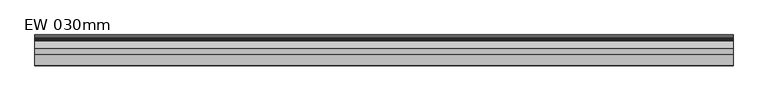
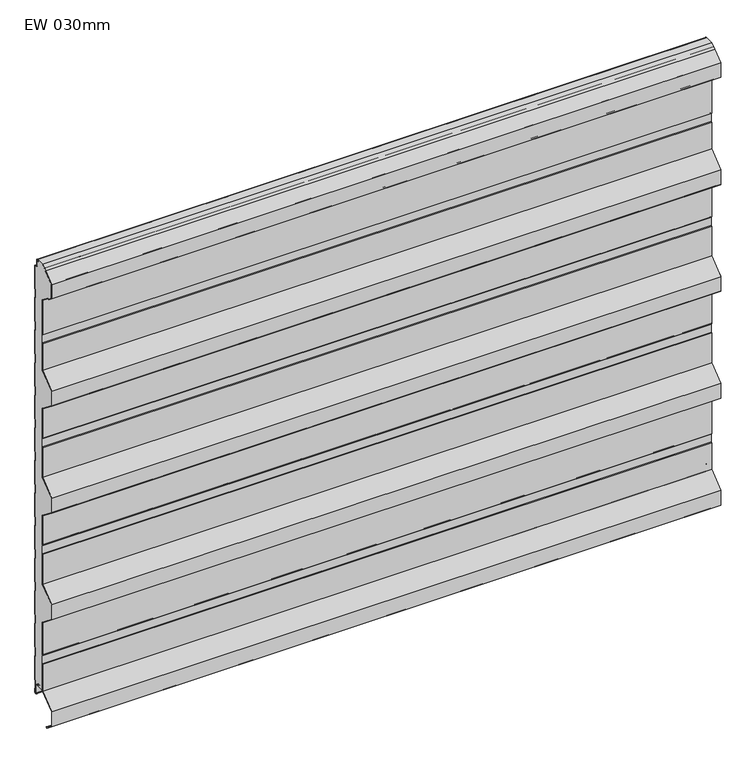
"""IFC4 building model written with IfcOpenShell, lengths in millimetres: plate geometry, KIP-MEX-KC-R19-CP-EW-SL : EW 030mm."""

from ifc_helpers import new_model, si_unit, point, frame, frame_2d, origin, place, context, project, spatial, polyline, circle_curve, trimmed, segment, composite_curve, outline, extrude, source, transform, mapped, element, save
from ifc_brep_helpers import plane_surface, cylinder_surface, revolved_surface, advanced_brep


def ew_030mm_7c448985(model_context):
    return source(origin(), model_context, "Body", "SolidModel", [
        advanced_brep(
        [(-740.0, -40.0327477, 989.051258), (-740.0, -35.6292245, 991.4166419), (-740.0, -36.1011177, 992.2982989), (-740.0, -40.5823669, 989.8911639), (-740.0, -29.7971296, 998.3652789), (-740.0, -11.2514375, 998.3666923), (-740.0, -13.6351997, 996.0840542), (-740.0, -14.1562355, 990.2938452), (-740.0, -13.178913, 990.2059002), (-740.0, -12.6629632, 995.9395891), (-740.0, -10.8760369, 997.3642752), (-740.0, -8.8936988, 995.9342793), (-740.0, -7.4885937, 979.8720443), (-740.0, -4.5000049, 977.1334803), (-740.0, -1.0, 977.1334803), (-740.0, -1.0, 924.1786391), (-740.0, -2.2002307, 922.7930062), (-740.0, -2.2002307, 903.4178399), (-740.0, -1.0, 902.0322069), (-740.0, -1.0, 847.9787915), (-740.0, -2.2002307, 846.5931586), (-740.0, -2.2002307, 827.2179923), (-740.0, -1.0, 825.8323593), (-740.0, -1.0, 771.7789439), (-740.0, -2.2002307, 770.393311), (-740.0, -2.2002307, 751.0181447), (-740.0, -1.0, 749.6325117), (-740.0, -1.0, 695.5790963), (-740.0, -2.2002307, 694.1934634), (-740.0, -2.2002307, 674.8182971), (-740.0, -1.0, 673.4326641), (-740.0, -1.0, 619.3792487), (-740.0, -2.2002307, 617.9936158), (-740.0, -2.2002307, 598.6184495), (-740.0, -1.0, 597.2328165), (-740.0, -1.0, 543.1794011), (-740.0, -2.2002307, 541.7937682), (-740.0, -2.2002307, 522.4186019), (-740.0, -1.0, 521.0329689), (-740.0, -1.0, 466.9795535), (-740.0, -2.2002307, 465.5939206), (-740.0, -2.2002307, 446.2187543), (-740.0, -1.0, 444.8331213), (-740.0, -1.0, 390.7797059), (-740.0, -2.2002307, 389.394073), (-740.0, -2.2002307, 370.0189067), (-740.0, -1.0, 368.6332737), (-740.0, -1.0, 314.5798583), (-740.0, -2.2002307, 313.1942254), (-740.0, -2.2002307, 293.8190591), (-740.0, -1.0, 292.4334261), (-740.0, -1.0, 238.3800107), (-740.0, -2.2002307, 236.9943778), (-740.0, -2.2002307, 217.6192115), (-740.0, -1.0, 216.2335785), (-740.0, -1.0, 162.1801631), (-740.0, -2.2002307, 160.7945302), (-740.0, -2.2002307, 141.4193639), (-740.0, -1.0, 140.0337309), (-740.0, -1.0, 85.9803155), (-740.0, -2.2002307, 84.5946826), (-740.0, -2.2002307, 65.2195163), (-740.0, -1.0, 63.8338833), (-740.0, -1.0, 9.7804679), (-740.0, -2.2002307, 8.394835), (-740.0, -2.2002307, -10.9803313), (-740.0, -0.9999916, -12.365974), (-740.0, -0.9999916, -20.8675386), (-740.0, -2.4999198, -20.8675386), (-740.0, -4.9998241, -18.3676343), (-740.0, -4.9998241, -0.3670493), (-740.0, -7.998082, 2.6333088), (-740.0, -11.5943952, 2.6333088), (-740.0, -13.0725686, 3.8746028), (-740.0, -13.6943971, 7.4169376), (-740.0, -14.6793372, 7.2440392), (-740.0, -14.0575086, 3.7017037), (-740.0, -11.5958694, 1.6333077), (-740.0, -29.0, 1.6333077), (-740.0, -29.0, 62.1559418), (-740.0, -27.9999989, 63.5702249), (-740.0, -27.9999989, 82.7777465), (-740.0, -29.0, 84.1920296), (-740.0, -29.0, 160.6910066), (-740.0, -64.000038, 188.1910365), (-740.0, -64.000038, 222.2190039), (-740.0, -29.0, 249.7190337), (-740.0, -29.0, 319.1871119), (-740.0, -27.9999989, 320.601395), (-740.0, -27.9999989, 339.8089167), (-740.0, -29.0, 341.2231997), (-740.0, -29.0, 410.6912779), (-740.0, -64.000038, 438.1913078), (-740.0, -64.000038, 472.2192752), (-740.0, -29.0, 499.719305), (-740.0, -29.0, 569.1090864), (-740.0, -27.9999989, 570.1732653), (-740.0, -27.9999989, 589.809188), (-740.0, -29.0, 591.2234711), (-740.0, -29.0, 660.6915492), (-740.0, -64.000038, 688.1915791), (-740.0, -64.000038, 722.2195465), (-740.0, -29.0, 749.7195763), (-740.0, -29.0, 812.1567557), (-740.0, -27.9999989, 813.5710388), (-740.0, -27.9999989, 832.7785605), (-740.0, -29.0, 834.1928435), (-740.0, -29.0, 914.6918249), (-740.0, -49.3814311, 930.7058064), (-740.0, -53.199617, 930.7058064), (-740.0, -63.0000369, 938.4061363), (-740.0, -63.0000369, 971.0055308), (740.0, -40.0327477, 989.051258), (740.0, -63.0000369, 971.0055308), (740.0, -63.0000369, 938.4061363), (740.0, -53.199617, 930.7058064), (740.0, -49.3814311, 930.7058064), (740.0, -29.0, 914.6918249), (740.0, -29.0, 834.1928435), (740.0, -27.9999989, 832.7785605), (740.0, -27.9999989, 813.5710388), (740.0, -29.0, 812.1567557), (740.0, -29.0, 749.7195763), (740.0, -64.000038, 722.2195465), (740.0, -64.000038, 688.1915791), (740.0, -29.0, 660.6915492), (740.0, -29.0, 591.2234711), (740.0, -27.9999989, 589.809188), (740.0, -27.9999989, 570.1732653), (740.0, -29.0, 569.1090864), (740.0, -29.0, 499.719305), (740.0, -64.000038, 472.2192752), (740.0, -64.000038, 438.1913078), (740.0, -29.0, 410.6912779), (740.0, -29.0, 341.2231997), (740.0, -27.9999989, 339.8089167), (740.0, -27.9999989, 320.601395), (740.0, -29.0, 319.1871119), (740.0, -29.0, 249.7190337), (740.0, -64.000038, 222.2190039), (740.0, -64.000038, 188.1910365), (740.0, -29.0, 160.6910066), (740.0, -29.0, 84.1920296), (740.0, -27.9999989, 82.7777465), (740.0, -27.9999989, 63.5702249), (740.0, -29.0, 62.1559418), (740.0, -29.0, 1.6333077), (740.0, -11.5958694, 1.6333077), (740.0, -14.0575086, 3.7017037), (740.0, -14.6793372, 7.2440392), (740.0, -13.6943971, 7.4169376), (740.0, -13.0725686, 3.8746028), (740.0, -11.5943952, 2.6333088), (740.0, -7.998082, 2.6333088), (740.0, -4.9998241, -0.3670493), (740.0, -4.9998241, -18.3676343), (740.0, -2.4999198, -20.8675386), (740.0, -0.9999916, -20.8675386), (740.0, -0.9999916, -12.365974), (740.0, -2.2002307, -10.9803313), (740.0, -2.2002307, 8.394835), (740.0, -1.0, 9.7804679), (740.0, -1.0, 63.8338833), (740.0, -2.2002307, 65.2195163), (740.0, -2.2002307, 84.5946826), (740.0, -1.0, 85.9803155), (740.0, -1.0, 140.0337309), (740.0, -2.2002307, 141.4193639), (740.0, -2.2002307, 160.7945302), (740.0, -1.0, 162.1801631), (740.0, -1.0, 216.2335785), (740.0, -2.2002307, 217.6192115), (740.0, -2.2002307, 236.9943778), (740.0, -1.0, 238.3800107), (740.0, -1.0, 292.4334261), (740.0, -2.2002307, 293.8190591), (740.0, -2.2002307, 313.1942254), (740.0, -1.0, 314.5798583), (740.0, -1.0, 368.6332737), (740.0, -2.2002307, 370.0189067), (740.0, -2.2002307, 389.394073), (740.0, -1.0, 390.7797059), (740.0, -1.0, 444.8331213), (740.0, -2.2002307, 446.2187543), (740.0, -2.2002307, 465.5939206), (740.0, -1.0, 466.9795535), (740.0, -1.0, 521.0329689), (740.0, -2.2002307, 522.4186019), (740.0, -2.2002307, 541.7937682), (740.0, -1.0, 543.1794011), (740.0, -1.0, 597.2328165), (740.0, -2.2002307, 598.6184495), (740.0, -2.2002307, 617.9936158), (740.0, -1.0, 619.3792487), (740.0, -1.0, 673.4326641), (740.0, -2.2002307, 674.8182971), (740.0, -2.2002307, 694.1934634), (740.0, -1.0, 695.5790963), (740.0, -1.0, 749.6325117), (740.0, -2.2002307, 751.0181447), (740.0, -2.2002307, 770.393311), (740.0, -1.0, 771.7789439), (740.0, -1.0, 825.8323593), (740.0, -2.2002307, 827.2179923), (740.0, -2.2002307, 846.5931586), (740.0, -1.0, 847.9787915), (740.0, -1.0, 902.0322069), (740.0, -2.2002307, 903.4178399), (740.0, -2.2002307, 922.7930062), (740.0, -1.0, 924.1786391), (740.0, -1.0, 977.1334803), (740.0, -4.5000049, 977.1334803), (740.0, -7.4885937, 979.8720443), (740.0, -8.8936988, 995.9342793), (740.0, -10.8760369, 997.3642752), (740.0, -12.6629632, 995.9395891), (740.0, -13.178913, 990.2059002), (740.0, -14.1562355, 990.2938452), (740.0, -13.6351997, 996.0840542), (740.0, -11.2514375, 998.3666923), (740.0, -29.7971296, 998.3652789), (740.0, -40.5823669, 989.8911639), (740.0, -36.1011177, 992.2982989), (740.0, -35.6292245, 991.4166419)],
        [
            (0, 1),
            (1, 2),
            (2, 3),
            (3, 4),
            (4, 5),
            (5, 6, circle_curve(frame((-740.0, -10.8441969, 995.5554081), z_axis=(1.0, 0.0, 0.0), x_axis=(0.0, -1.0, 0.0)), 2.8406273)),
            (6, 7),
            (7, 8),
            (8, 9),
            (9, 10, circle_curve(frame((-740.0, -10.8991179, 995.560247), z_axis=(-1.0, 0.0, 0.0), x_axis=(0.0, -1.0, 0.0)), 1.8041759)),
            (10, 11, circle_curve(frame((-740.0, -10.6928483, 995.5292107), z_axis=(-1.0, 0.0, 0.0), x_axis=(0.0, -1.0, 0.0)), 1.8441854)),
            (11, 12),
            (12, 13, circle_curve(frame((-740.0, -4.5000049, 980.1334825), z_axis=(1.0, 0.0, 0.0), x_axis=(0.0, -1.0, 0.0)), 3.0000022)),
            (13, 14),
            (14, 15),
            (15, 16),
            (16, 17),
            (17, 18),
            (18, 19),
            (19, 20),
            (20, 21),
            (21, 22),
            (22, 23),
            (23, 24),
            (24, 25),
            (25, 26),
            (26, 27),
            (27, 28),
            (28, 29),
            (29, 30),
            (30, 31),
            (31, 32),
            (32, 33),
            (33, 34),
            (34, 35),
            (35, 36),
            (36, 37),
            (37, 38),
            (38, 39),
            (39, 40),
            (40, 41),
            (41, 42),
            (42, 43),
            (43, 44),
            (44, 45),
            (45, 46),
            (46, 47),
            (47, 48),
            (48, 49),
            (49, 50),
            (50, 51),
            (51, 52),
            (52, 53),
            (53, 54),
            (54, 55),
            (55, 56),
            (56, 57),
            (57, 58),
            (58, 59),
            (59, 60),
            (60, 61),
            (61, 62),
            (62, 63),
            (63, 64),
            (64, 65),
            (65, 66),
            (66, 67),
            (67, 68),
            (68, 69, circle_curve(frame((-740.0, -2.4999198, -18.3676343), z_axis=(-1.0, 0.0, 0.0), x_axis=(0.0, -1.0, 0.0)), 2.4999043)),
            (69, 70),
            (70, 71, circle_curve(frame((-740.0, -8.0001829, -0.3670493), z_axis=(1.0, 0.0, 0.0), x_axis=(0.0, -1.0, 0.0)), 3.0003589)),
            (71, 72),
            (72, 73, circle_curve(frame((-740.0, -11.5943952, 4.1340843), z_axis=(-1.0, 0.0, 0.0), x_axis=(0.0, -1.0, 0.0)), 1.5007755)),
            (73, 74),
            (74, 75),
            (75, 76),
            (76, 77, circle_curve(frame((-740.0, -11.5943948, 4.1340836), z_axis=(1.0, 0.0, 0.0), x_axis=(0.0, -1.0, 0.0)), 2.5007762)),
            (77, 78),
            (78, 79),
            (79, 80),
            (80, 81),
            (81, 82),
            (82, 83),
            (83, 84),
            (84, 85),
            (85, 86),
            (86, 87),
            (87, 88),
            (88, 89),
            (89, 90),
            (90, 91),
            (91, 92),
            (92, 93),
            (93, 94),
            (94, 95),
            (95, 96),
            (96, 97),
            (97, 98),
            (98, 99),
            (99, 100),
            (100, 101),
            (101, 102),
            (102, 103),
            (103, 104),
            (104, 105),
            (105, 106),
            (106, 107),
            (107, 108),
            (108, 109),
            (109, 110),
            (110, 111),
            (111, 0),
            (112, 113),
            (113, 114),
            (114, 115),
            (115, 116),
            (116, 117),
            (117, 118),
            (118, 119),
            (119, 120),
            (120, 121),
            (121, 122),
            (122, 123),
            (123, 124),
            (124, 125),
            (125, 126),
            (126, 127),
            (127, 128),
            (128, 129),
            (129, 130),
            (130, 131),
            (131, 132),
            (132, 133),
            (133, 134),
            (134, 135),
            (135, 136),
            (136, 137),
            (137, 138),
            (138, 139),
            (139, 140),
            (140, 141),
            (141, 142),
            (142, 143),
            (143, 144),
            (144, 145),
            (145, 146),
            (146, 147),
            (147, 148, circle_curve(frame((740.0, -11.5943948, 4.1340836), z_axis=(-1.0, 0.0, 0.0), x_axis=(0.0, -1.0, 0.0)), 2.5007762)),
            (148, 149),
            (149, 150),
            (150, 151),
            (151, 152, circle_curve(frame((740.0, -11.5943952, 4.1340843), z_axis=(1.0, 0.0, 0.0), x_axis=(0.0, -1.0, 0.0)), 1.5007755)),
            (152, 153),
            (153, 154, circle_curve(frame((740.0, -8.0001829, -0.3670493), z_axis=(-1.0, 0.0, 0.0), x_axis=(0.0, -1.0, 0.0)), 3.0003589)),
            (154, 155),
            (155, 156, circle_curve(frame((740.0, -2.4999198, -18.3676343), z_axis=(1.0, 0.0, 0.0), x_axis=(0.0, -1.0, 0.0)), 2.4999043)),
            (156, 157),
            (157, 158),
            (158, 159),
            (159, 160),
            (160, 161),
            (161, 162),
            (162, 163),
            (163, 164),
            (164, 165),
            (165, 166),
            (166, 167),
            (167, 168),
            (168, 169),
            (169, 170),
            (170, 171),
            (171, 172),
            (172, 173),
            (173, 174),
            (174, 175),
            (175, 176),
            (176, 177),
            (177, 178),
            (178, 179),
            (179, 180),
            (180, 181),
            (181, 182),
            (182, 183),
            (183, 184),
            (184, 185),
            (185, 186),
            (186, 187),
            (187, 188),
            (188, 189),
            (189, 190),
            (190, 191),
            (191, 192),
            (192, 193),
            (193, 194),
            (194, 195),
            (195, 196),
            (196, 197),
            (197, 198),
            (198, 199),
            (199, 200),
            (200, 201),
            (201, 202),
            (202, 203),
            (203, 204),
            (204, 205),
            (205, 206),
            (206, 207),
            (207, 208),
            (208, 209),
            (209, 210),
            (210, 211),
            (211, 212, circle_curve(frame((740.0, -4.5000049, 980.1334825), z_axis=(-1.0, 0.0, 0.0), x_axis=(0.0, -1.0, 0.0)), 3.0000022)),
            (212, 213),
            (213, 214, circle_curve(frame((740.0, -10.6928483, 995.5292107), z_axis=(1.0, 0.0, 0.0), x_axis=(0.0, -1.0, 0.0)), 1.8441854)),
            (214, 215, circle_curve(frame((740.0, -10.8991179, 995.560247), z_axis=(1.0, 0.0, 0.0), x_axis=(0.0, -1.0, 0.0)), 1.8041759)),
            (215, 216),
            (216, 217),
            (217, 218),
            (218, 219, circle_curve(frame((740.0, -10.8441969, 995.5554081), z_axis=(-1.0, 0.0, 0.0), x_axis=(0.0, -1.0, 0.0)), 2.8406273)),
            (219, 220),
            (220, 221),
            (221, 222),
            (222, 223),
            (223, 112),
            (0, 112),
            (223, 1),
            (111, 113),
            (110, 114),
            (109, 115),
            (108, 116),
            (107, 117),
            (106, 118),
            (105, 119),
            (104, 120),
            (103, 121),
            (102, 122),
            (101, 123),
            (100, 124),
            (99, 125),
            (98, 126),
            (97, 127),
            (96, 128),
            (95, 129),
            (94, 130),
            (93, 131),
            (92, 132),
            (91, 133),
            (90, 134),
            (89, 135),
            (88, 136),
            (87, 137),
            (86, 138),
            (85, 139),
            (84, 140),
            (83, 141),
            (82, 142),
            (81, 143),
            (80, 144),
            (79, 145),
            (78, 146),
            (2, 222),
            (221, 3),
            (220, 4),
            (219, 5),
            (77, 147),
            (73, 151),
            (150, 74),
            (72, 152),
            (71, 153),
            (70, 154),
            (69, 155),
            (68, 156),
            (67, 157),
            (13, 211),
            (210, 14),
            (12, 212),
            (11, 213),
            (10, 214),
            (9, 215),
            (8, 216),
            (7, 217),
            (6, 218),
            (76, 148),
            (75, 149),
            (66, 158),
            (65, 159),
            (64, 160),
            (63, 161),
            (62, 162),
            (61, 163),
            (60, 164),
            (59, 165),
            (58, 166),
            (57, 167),
            (56, 168),
            (55, 169),
            (54, 170),
            (53, 171),
            (52, 172),
            (51, 173),
            (50, 174),
            (49, 175),
            (48, 176),
            (47, 177),
            (46, 178),
            (45, 179),
            (44, 180),
            (43, 181),
            (42, 182),
            (41, 183),
            (40, 184),
            (39, 185),
            (38, 186),
            (37, 187),
            (36, 188),
            (35, 189),
            (34, 190),
            (33, 191),
            (32, 192),
            (31, 193),
            (30, 194),
            (29, 195),
            (28, 196),
            (27, 197),
            (26, 198),
            (25, 199),
            (24, 200),
            (23, 201),
            (22, 202),
            (21, 203),
            (20, 204),
            (19, 205),
            (18, 206),
            (17, 207),
            (16, 208),
            (15, 209),
        ],
        [
            plane_surface(frame((-740.0, -29.0, 500.0), z_axis=(-1.0, 0.0, 0.0), x_axis=(0.0, -1.0, 0.0))),
            plane_surface(frame((740.0, -29.0, 500.0), z_axis=(1.0, 0.0, 0.0), x_axis=(0.0, -1.0, 0.0))),
            plane_surface(frame((-740.0, -35.6292245, 991.4166419), z_axis=(0.0, -0.4732087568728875, 0.8809503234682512), x_axis=(1.0, 0.0, 0.0))),
            plane_surface(frame((-740.0, -40.0327477, 989.051258), z_axis=(0.0, -0.6178215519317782, 0.7863183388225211), x_axis=(1.0, 0.0, 0.0))),
            plane_surface(frame((-740.0, -63.0000369, 971.0055308), z_axis=(0.0, -1.0, 0.0), x_axis=(1.0, 0.0, 0.0))),
            plane_surface(frame((-740.0, -63.0000369, 938.4061363), z_axis=(0.0, -0.6178215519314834, -0.7863183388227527), x_axis=(1.0, 0.0, 0.0))),
            plane_surface(frame((-740.0, -53.199617, 930.7058064), z_axis=(0.0, 0.0, -1.0), x_axis=(1.0, 0.0, 0.0))),
            plane_surface(frame((-740.0, -49.3814311, 930.7058064), z_axis=(0.0, -0.6178215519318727, -0.786318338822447), x_axis=(1.0, 0.0, 0.0))),
            plane_surface(frame((-740.0, -29.0, 914.6918249), z_axis=(0.0, -1.0, 0.0), x_axis=(1.0, 0.0, 0.0))),
            plane_surface(frame((-740.0, -29.0, 834.1928435), z_axis=(0.0, -0.8165096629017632, -0.577331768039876), x_axis=(1.0, 0.0, 0.0))),
            plane_surface(frame((-740.0, -27.9999989, 832.7785605), z_axis=(0.0, -1.0, 0.0), x_axis=(1.0, 0.0, 0.0))),
            plane_surface(frame((-740.0, -27.9999989, 813.5710388), z_axis=(0.0, -0.816509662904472, 0.5773317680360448), x_axis=(1.0, 0.0, 0.0))),
            plane_surface(frame((-740.0, -29.0, 812.1567557), z_axis=(0.0, -1.0, 0.0), x_axis=(1.0, 0.0, 0.0))),
            plane_surface(frame((-740.0, -29.0, 749.7195763), z_axis=(0.0, -0.6178215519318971, 0.7863183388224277), x_axis=(1.0, 0.0, 0.0))),
            plane_surface(frame((-740.0, -64.000038, 722.2195465), z_axis=(0.0, -1.0, 0.0), x_axis=(1.0, 0.0, 0.0))),
            plane_surface(frame((-740.0, -64.000038, 688.1915791), z_axis=(0.0, -0.6178215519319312, -0.7863183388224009), x_axis=(1.0, 0.0, 0.0))),
            plane_surface(frame((-740.0, -29.0, 660.6915492), z_axis=(0.0, -1.0, 0.0), x_axis=(1.0, 0.0, 0.0))),
            plane_surface(frame((-740.0, -29.0, 591.2234711), z_axis=(0.0, -0.8165096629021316, -0.577331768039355), x_axis=(1.0, 0.0, 0.0))),
            plane_surface(frame((-740.0, -27.9999989, 589.809188), z_axis=(0.0, -1.0, 0.0), x_axis=(1.0, 0.0, 0.0))),
            plane_surface(frame((-740.0, -27.9999989, 570.1732653), z_axis=(0.0, -0.7287394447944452, 0.6847910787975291), x_axis=(1.0, 0.0, 0.0))),
            plane_surface(frame((-740.0, -29.0, 569.1090864), z_axis=(0.0, -1.0, 0.0), x_axis=(1.0, 0.0, 0.0))),
            plane_surface(frame((-740.0, -29.0, 499.719305), z_axis=(0.0, -0.6178215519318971, 0.7863183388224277), x_axis=(1.0, 0.0, 0.0))),
            plane_surface(frame((-740.0, -64.000038, 472.2192752), z_axis=(0.0, -1.0, 0.0), x_axis=(1.0, 0.0, 0.0))),
            plane_surface(frame((-740.0, -64.000038, 438.1913078), z_axis=(0.0, -0.6178215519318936, -0.7863183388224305), x_axis=(1.0, 0.0, 0.0))),
            plane_surface(frame((-740.0, -29.0, 410.6912779), z_axis=(0.0, -1.0, 0.0), x_axis=(1.0, 0.0, 0.0))),
            plane_surface(frame((-740.0, -29.0, 341.2231997), z_axis=(0.0, -0.8165096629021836, -0.5773317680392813), x_axis=(1.0, 0.0, 0.0))),
            plane_surface(frame((-740.0, -27.9999989, 339.8089167), z_axis=(0.0, -1.0, 0.0), x_axis=(1.0, 0.0, 0.0))),
            plane_surface(frame((-740.0, -27.9999989, 320.601395), z_axis=(0.0, -0.8165096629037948, 0.5773317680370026), x_axis=(1.0, 0.0, 0.0))),
            plane_surface(frame((-740.0, -29.0, 319.1871119), z_axis=(0.0, -1.0, 0.0), x_axis=(1.0, 0.0, 0.0))),
            plane_surface(frame((-740.0, -29.0, 249.7190337), z_axis=(0.0, -0.6178215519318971, 0.7863183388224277), x_axis=(1.0, 0.0, 0.0))),
            plane_surface(frame((-740.0, -64.000038, 222.2190039), z_axis=(0.0, -1.0, 0.0), x_axis=(1.0, 0.0, 0.0))),
            plane_surface(frame((-740.0, -64.000038, 188.1910365), z_axis=(0.0, -0.6178215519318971, -0.7863183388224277), x_axis=(1.0, 0.0, 0.0))),
            plane_surface(frame((-740.0, -29.0, 160.6910066), z_axis=(0.0, -1.0, 0.0), x_axis=(1.0, 0.0, 0.0))),
            plane_surface(frame((-740.0, -29.0, 84.1920296), z_axis=(0.0, -0.8165096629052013, -0.5773317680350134), x_axis=(1.0, 0.0, 0.0))),
            plane_surface(frame((-740.0, -27.9999989, 82.7777465), z_axis=(0.0, -1.0, 0.0), x_axis=(1.0, 0.0, 0.0))),
            plane_surface(frame((-740.0, -27.9999989, 63.5702249), z_axis=(0.0, -0.8165096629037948, 0.5773317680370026), x_axis=(1.0, 0.0, 0.0))),
            plane_surface(frame((-740.0, -29.0, 62.1559418), z_axis=(0.0, -1.0, 0.0), x_axis=(1.0, 0.0, 0.0))),
            plane_surface(frame((-740.0, -40.5823669, 989.8911639), z_axis=(0.0, 0.47320875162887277, -0.8809503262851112), x_axis=(1.0, 0.0, 0.0))),
            plane_surface(frame((-740.0, -36.1011177, 992.2982989), z_axis=(0.0, -0.8816559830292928, -0.47189270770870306), x_axis=(1.0, 0.0, 0.0))),
            plane_surface(frame((-740.0, -29.7971296, 998.3652789), z_axis=(0.0, -0.617821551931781, 0.786318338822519), x_axis=(1.0, 0.0, 0.0))),
            plane_surface(frame((-740.0, -24.8065083, 998.3652789), z_axis=(0.0, 0.0, 1.0), x_axis=(1.0, 0.0, 0.0))),
            plane_surface(frame((-740.0, -29.0, 1.6333077), z_axis=(0.0, 0.0, -1.0), x_axis=(1.0, 0.0, 0.0))),
            plane_surface(frame((-740.0, -13.6943971, 7.4169376), z_axis=(0.0, -0.9849396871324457, -0.17289827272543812), x_axis=(1.0, 0.0, 0.0))),
            cylinder_surface(frame((-740.0, -11.5943952, 4.1340843), z_axis=(-1.0, 0.0, 0.0), x_axis=(0.0, -1.0, 0.0)), 1.5007755),
            plane_surface(frame((-740.0, -11.5943952, 2.6333088), z_axis=(0.0, 0.0, -1.0), x_axis=(1.0, 0.0, 0.0))),
            revolved_surface(polyline([(740.0, -11.0005418, -0.3670493), (-740.0, -11.0005418, -0.3670493)]), (-740.0, -8.0001829, -0.3670493), (1.0, 0.0, 0.0)),
            plane_surface(frame((-740.0, -4.9998241, -0.3670493), z_axis=(0.0, -1.0, 0.0), x_axis=(1.0, 0.0, 0.0))),
            cylinder_surface(frame((-740.0, -2.4999198, -18.3676343), z_axis=(-1.0, 0.0, 0.0), x_axis=(0.0, -1.0, 0.0)), 2.4999043),
            plane_surface(frame((-740.0, -2.4999198, -20.8675386), z_axis=(0.0, 0.0, -1.0), x_axis=(1.0, 0.0, 0.0))),
            plane_surface(frame((-740.0, -1.0, 977.1334803), z_axis=(0.0, 0.0, 1.0), x_axis=(1.0, 0.0, 0.0))),
            revolved_surface(polyline([(740.0, -7.5000071, 980.1334825), (-740.0, -7.5000071, 980.1334825)]), (-740.0, -4.5000049, 980.1334825), (1.0, 0.0, 0.0)),
            plane_surface(frame((-740.0, -7.4885937, 979.8720443), z_axis=(0.0, 0.9961955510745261, 0.08714599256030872), x_axis=(1.0, 0.0, 0.0))),
            cylinder_surface(frame((-740.0, -10.6928483, 995.5292107), z_axis=(-1.0, 0.0, 0.0), x_axis=(0.0, -1.0, 0.0)), 1.8441854),
            cylinder_surface(frame((-740.0, -10.8991179, 995.560247), z_axis=(-1.0, 0.0, 0.0), x_axis=(0.0, -1.0, 0.0)), 1.8041759),
            plane_surface(frame((-740.0, -12.6629632, 995.9395891), z_axis=(0.0, -0.9959757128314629, 0.08962354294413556), x_axis=(1.0, 0.0, 0.0))),
            plane_surface(frame((-740.0, -13.178913, 990.2059002), z_axis=(0.0, 0.0896235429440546, 0.9959757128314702), x_axis=(1.0, 0.0, 0.0))),
            plane_surface(frame((-740.0, -14.1562355, 990.2938452), z_axis=(0.0, 0.9959757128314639, -0.08962354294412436), x_axis=(1.0, 0.0, 0.0))),
            revolved_surface(polyline([(740.0, -13.6848242, 995.5554081), (-740.0, -13.6848242, 995.5554081)]), (-740.0, -10.8441969, 995.5554081), (1.0, 0.0, 0.0)),
            revolved_surface(polyline([(740.0, -14.095171, 4.1340836), (-740.0, -14.095171, 4.1340836)]), (-740.0, -11.5943948, 4.1340836), (1.0, 0.0, 0.0)),
            plane_surface(frame((-740.0, -14.0575086, 3.7017037), z_axis=(0.0, 0.9849396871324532, 0.17289827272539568), x_axis=(1.0, 0.0, 0.0))),
            plane_surface(frame((-740.0, -14.6793372, 7.2440392), z_axis=(0.0, 0.17289827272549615, -0.9849396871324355), x_axis=(1.0, 0.0, 0.0))),
            plane_surface(frame((-740.0, -0.9999916, -20.8675386), z_axis=(0.0, 1.0, 0.0), x_axis=(1.0, 0.0, 0.0))),
            plane_surface(frame((-740.0, -0.9999916, -12.365974), z_axis=(0.0, 0.7558648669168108, 0.6547276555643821), x_axis=(1.0, 0.0, 0.0))),
            plane_surface(frame((-740.0, -2.2002307, -10.9803313), z_axis=(0.0, 1.0, 0.0), x_axis=(1.0, 0.0, 0.0))),
            plane_surface(frame((-740.0, -2.2002307, 8.394835), z_axis=(0.0, 0.7558648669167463, -0.6547276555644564), x_axis=(1.0, 0.0, 0.0))),
            plane_surface(frame((-740.0, -1.0, 9.7804679), z_axis=(0.0, 1.0, 0.0), x_axis=(1.0, 0.0, 0.0))),
            plane_surface(frame((-740.0, -1.0, 63.8338833), z_axis=(0.0, 0.7558648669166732, 0.6547276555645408), x_axis=(1.0, 0.0, 0.0))),
            plane_surface(frame((-740.0, -2.2002307, 65.2195163), z_axis=(0.0, 1.0, 0.0), x_axis=(1.0, 0.0, 0.0))),
            plane_surface(frame((-740.0, -2.2002307, 84.5946826), z_axis=(0.0, 0.7558648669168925, -0.6547276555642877), x_axis=(1.0, 0.0, 0.0))),
            plane_surface(frame((-740.0, -1.0, 85.9803155), z_axis=(0.0, 1.0, 0.0), x_axis=(1.0, 0.0, 0.0))),
            plane_surface(frame((-740.0, -1.0, 140.0337309), z_axis=(0.0, 0.7558648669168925, 0.6547276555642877), x_axis=(1.0, 0.0, 0.0))),
            plane_surface(frame((-740.0, -2.2002307, 141.4193639), z_axis=(0.0, 1.0, 0.0), x_axis=(1.0, 0.0, 0.0))),
            plane_surface(frame((-740.0, -2.2002307, 160.7945302), z_axis=(0.0, 0.7558648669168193, -0.6547276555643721), x_axis=(1.0, 0.0, 0.0))),
            plane_surface(frame((-740.0, -1.0, 162.1801631), z_axis=(0.0, 1.0, 0.0), x_axis=(1.0, 0.0, 0.0))),
            plane_surface(frame((-740.0, -1.0, 216.2335785), z_axis=(0.0, 0.7558648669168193, 0.6547276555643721), x_axis=(1.0, 0.0, 0.0))),
            plane_surface(frame((-740.0, -2.2002307, 217.6192115), z_axis=(0.0, 1.0, 0.0), x_axis=(1.0, 0.0, 0.0))),
            plane_surface(frame((-740.0, -2.2002307, 236.9943778), z_axis=(0.0, 0.7558648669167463, -0.6547276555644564), x_axis=(1.0, 0.0, 0.0))),
            plane_surface(frame((-740.0, -1.0, 238.3800107), z_axis=(0.0, 1.0, 0.0), x_axis=(1.0, 0.0, 0.0))),
            plane_surface(frame((-740.0, -1.0, 292.4334261), z_axis=(0.0, 0.7558648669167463, 0.6547276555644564), x_axis=(1.0, 0.0, 0.0))),
            plane_surface(frame((-740.0, -2.2002307, 293.8190591), z_axis=(0.0, 1.0, 0.0), x_axis=(1.0, 0.0, 0.0))),
            plane_surface(frame((-740.0, -2.2002307, 313.1942254), z_axis=(0.0, 0.7558648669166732, -0.6547276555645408), x_axis=(1.0, 0.0, 0.0))),
            plane_surface(frame((-740.0, -1.0, 314.5798583), z_axis=(0.0, 1.0, 0.0), x_axis=(1.0, 0.0, 0.0))),
            plane_surface(frame((-740.0, -1.0, 368.6332737), z_axis=(0.0, 0.7558648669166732, 0.6547276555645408), x_axis=(1.0, 0.0, 0.0))),
            plane_surface(frame((-740.0, -2.2002307, 370.0189067), z_axis=(0.0, 1.0, 0.0), x_axis=(1.0, 0.0, 0.0))),
            plane_surface(frame((-740.0, -2.2002307, 389.394073), z_axis=(0.0, 0.755864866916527, -0.6547276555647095), x_axis=(1.0, 0.0, 0.0))),
            plane_surface(frame((-740.0, -1.0, 390.7797059), z_axis=(0.0, 1.0, 0.0), x_axis=(1.0, 0.0, 0.0))),
            plane_surface(frame((-740.0, -1.0, 444.8331213), z_axis=(0.0, 0.755864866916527, 0.6547276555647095), x_axis=(1.0, 0.0, 0.0))),
            plane_surface(frame((-740.0, -2.2002307, 446.2187543), z_axis=(0.0, 1.0, 0.0), x_axis=(1.0, 0.0, 0.0))),
            plane_surface(frame((-740.0, -2.2002307, 465.5939206), z_axis=(0.0, 0.755864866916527, -0.6547276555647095), x_axis=(1.0, 0.0, 0.0))),
            plane_surface(frame((-740.0, -1.0, 466.9795535), z_axis=(0.0, 1.0, 0.0), x_axis=(1.0, 0.0, 0.0))),
            plane_surface(frame((-740.0, -1.0, 521.0329689), z_axis=(0.0, 0.755864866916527, 0.6547276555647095), x_axis=(1.0, 0.0, 0.0))),
            plane_surface(frame((-740.0, -2.2002307, 522.4186019), z_axis=(0.0, 1.0, 0.0), x_axis=(1.0, 0.0, 0.0))),
            plane_surface(frame((-740.0, -2.2002307, 541.7937682), z_axis=(0.0, 0.7558648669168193, -0.6547276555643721), x_axis=(1.0, 0.0, 0.0))),
            plane_surface(frame((-740.0, -1.0, 543.1794011), z_axis=(0.0, 1.0, 0.0), x_axis=(1.0, 0.0, 0.0))),
            plane_surface(frame((-740.0, -1.0, 597.2328165), z_axis=(0.0, 0.7558648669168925, 0.6547276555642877), x_axis=(1.0, 0.0, 0.0))),
            plane_surface(frame((-740.0, -2.2002307, 598.6184495), z_axis=(0.0, 1.0, 0.0), x_axis=(1.0, 0.0, 0.0))),
            plane_surface(frame((-740.0, -2.2002307, 617.9936158), z_axis=(0.0, 0.7558648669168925, -0.6547276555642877), x_axis=(1.0, 0.0, 0.0))),
            plane_surface(frame((-740.0, -1.0, 619.3792487), z_axis=(0.0, 1.0, 0.0), x_axis=(1.0, 0.0, 0.0))),
            plane_surface(frame((-740.0, -1.0, 673.4326641), z_axis=(0.0, 0.7558648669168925, 0.6547276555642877), x_axis=(1.0, 0.0, 0.0))),
            plane_surface(frame((-740.0, -2.2002307, 674.8182971), z_axis=(0.0, 1.0, 0.0), x_axis=(1.0, 0.0, 0.0))),
            plane_surface(frame((-740.0, -2.2002307, 694.1934634), z_axis=(0.0, 0.7558648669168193, -0.6547276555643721), x_axis=(1.0, 0.0, 0.0))),
            plane_surface(frame((-740.0, -1.0, 695.5790963), z_axis=(0.0, 1.0, 0.0), x_axis=(1.0, 0.0, 0.0))),
            plane_surface(frame((-740.0, -1.0, 749.6325117), z_axis=(0.0, 0.7558648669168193, 0.6547276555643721), x_axis=(1.0, 0.0, 0.0))),
            plane_surface(frame((-740.0, -2.2002307, 751.0181447), z_axis=(0.0, 1.0, 0.0), x_axis=(1.0, 0.0, 0.0))),
            plane_surface(frame((-740.0, -2.2002307, 770.393311), z_axis=(0.0, 0.7558648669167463, -0.6547276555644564), x_axis=(1.0, 0.0, 0.0))),
            plane_surface(frame((-740.0, -1.0, 771.7789439), z_axis=(0.0, 1.0, 0.0), x_axis=(1.0, 0.0, 0.0))),
            plane_surface(frame((-740.0, -1.0, 825.8323593), z_axis=(0.0, 0.7558648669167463, 0.6547276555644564), x_axis=(1.0, 0.0, 0.0))),
            plane_surface(frame((-740.0, -2.2002307, 827.2179923), z_axis=(0.0, 1.0, 0.0), x_axis=(1.0, 0.0, 0.0))),
            plane_surface(frame((-740.0, -2.2002307, 846.5931586), z_axis=(0.0, 0.7558648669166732, -0.6547276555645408), x_axis=(1.0, 0.0, 0.0))),
            plane_surface(frame((-740.0, -1.0, 847.9787915), z_axis=(0.0, 1.0, 0.0), x_axis=(1.0, 0.0, 0.0))),
            plane_surface(frame((-740.0, -1.0, 902.0322069), z_axis=(0.0, 0.7558648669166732, 0.6547276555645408), x_axis=(1.0, 0.0, 0.0))),
            plane_surface(frame((-740.0, -2.2002307, 903.4178399), z_axis=(0.0, 1.0, 0.0), x_axis=(1.0, 0.0, 0.0))),
            plane_surface(frame((-740.0, -2.2002307, 922.7930062), z_axis=(0.0, 0.7558648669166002, -0.6547276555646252), x_axis=(1.0, 0.0, 0.0))),
            plane_surface(frame((-740.0, -1.0, 924.1786391), z_axis=(0.0, 1.0, 0.0), x_axis=(1.0, 0.0, 0.0))),
        ],
        [
            (0, [[1, 2, 3, 4, 5, 6, 7, 8, 9, 10, 11, 12, 13, 14, 15, 16, 17, 18, 19, 20, 21, 22, 23, 24, 25, 26, 27, 28, 29, 30, 31, 32, 33, 34, 35, 36, 37, 38, 39, 40, 41, 42, 43, 44, 45, 46, 47, 48, 49, 50, 51, 52, 53, 54, 55, 56, 57, 58, 59, 60, 61, 62, 63, 64, 65, 66, 67, 68, 69, 70, 71, 72, 73, 74, 75, 76, 77, 78, 79, 80, 81, 82, 83, 84, 85, 86, 87, 88, 89, 90, 91, 92, 93, 94, 95, 96, 97, 98, 99, 100, 101, 102, 103, 104, 105, 106, 107, 108, 109, 110, 111, 112]]),
            (1, [[113, 114, 115, 116, 117, 118, 119, 120, 121, 122, 123, 124, 125, 126, 127, 128, 129, 130, 131, 132, 133, 134, 135, 136, 137, 138, 139, 140, 141, 142, 143, 144, 145, 146, 147, 148, 149, 150, 151, 152, 153, 154, 155, 156, 157, 158, 159, 160, 161, 162, 163, 164, 165, 166, 167, 168, 169, 170, 171, 172, 173, 174, 175, 176, 177, 178, 179, 180, 181, 182, 183, 184, 185, 186, 187, 188, 189, 190, 191, 192, 193, 194, 195, 196, 197, 198, 199, 200, 201, 202, 203, 204, 205, 206, 207, 208, 209, 210, 211, 212, 213, 214, 215, 216, 217, 218, 219, 220, 221, 222, 223, 224]]),
            (2, [[225, -224, 226, -1]]),
            (3, [[227, -113, -225, -112]]),
            (4, [[228, -114, -227, -111]]),
            (5, [[229, -115, -228, -110]]),
            (6, [[230, -116, -229, -109]]),
            (7, [[231, -117, -230, -108]]),
            (8, [[232, -118, -231, -107]]),
            (9, [[233, -119, -232, -106]]),
            (10, [[234, -120, -233, -105]]),
            (11, [[235, -121, -234, -104]]),
            (12, [[236, -122, -235, -103]]),
            (13, [[237, -123, -236, -102]]),
            (14, [[238, -124, -237, -101]]),
            (15, [[239, -125, -238, -100]]),
            (16, [[240, -126, -239, -99]]),
            (17, [[241, -127, -240, -98]]),
            (18, [[242, -128, -241, -97]]),
            (19, [[243, -129, -242, -96]]),
            (20, [[244, -130, -243, -95]]),
            (21, [[245, -131, -244, -94]]),
            (22, [[246, -132, -245, -93]]),
            (23, [[247, -133, -246, -92]]),
            (24, [[248, -134, -247, -91]]),
            (25, [[249, -135, -248, -90]]),
            (26, [[250, -136, -249, -89]]),
            (27, [[251, -137, -250, -88]]),
            (28, [[252, -138, -251, -87]]),
            (29, [[253, -139, -252, -86]]),
            (30, [[254, -140, -253, -85]]),
            (31, [[255, -141, -254, -84]]),
            (32, [[256, -142, -255, -83]]),
            (33, [[257, -143, -256, -82]]),
            (34, [[258, -144, -257, -81]]),
            (35, [[259, -145, -258, -80]]),
            (36, [[260, -146, -259, -79]]),
            (37, [[261, -222, 262, -3]]),
            (38, [[-226, -223, -261, -2]]),
            (39, [[-262, -221, 263, -4]]),
            (40, [[-263, -220, 264, -5]]),
            (41, [[265, -147, -260, -78]]),
            (42, [[266, -151, 267, -74]]),
            (43, [[268, -152, -266, -73]]),
            (44, [[269, -153, -268, -72]]),
            (45, [[270, -154, -269, -71]]),
            (46, [[271, -155, -270, -70]]),
            (47, [[272, -156, -271, -69]]),
            (48, [[273, -157, -272, -68]]),
            (49, [[274, -211, 275, -14]]),
            (50, [[276, -212, -274, -13]]),
            (51, [[277, -213, -276, -12]]),
            (52, [[278, -214, -277, -11]]),
            (53, [[279, -215, -278, -10]]),
            (54, [[280, -216, -279, -9]]),
            (55, [[281, -217, -280, -8]]),
            (56, [[282, -218, -281, -7]]),
            (57, [[-264, -219, -282, -6]]),
            (58, [[283, -148, -265, -77]]),
            (59, [[284, -149, -283, -76]]),
            (60, [[-267, -150, -284, -75]]),
            (61, [[285, -158, -273, -67]]),
            (62, [[286, -159, -285, -66]]),
            (63, [[287, -160, -286, -65]]),
            (64, [[288, -161, -287, -64]]),
            (65, [[289, -162, -288, -63]]),
            (66, [[290, -163, -289, -62]]),
            (67, [[291, -164, -290, -61]]),
            (68, [[292, -165, -291, -60]]),
            (69, [[293, -166, -292, -59]]),
            (70, [[294, -167, -293, -58]]),
            (71, [[295, -168, -294, -57]]),
            (72, [[296, -169, -295, -56]]),
            (73, [[297, -170, -296, -55]]),
            (74, [[298, -171, -297, -54]]),
            (75, [[299, -172, -298, -53]]),
            (76, [[300, -173, -299, -52]]),
            (77, [[301, -174, -300, -51]]),
            (78, [[302, -175, -301, -50]]),
            (79, [[303, -176, -302, -49]]),
            (80, [[304, -177, -303, -48]]),
            (81, [[305, -178, -304, -47]]),
            (82, [[306, -179, -305, -46]]),
            (83, [[307, -180, -306, -45]]),
            (84, [[308, -181, -307, -44]]),
            (85, [[309, -182, -308, -43]]),
            (86, [[310, -183, -309, -42]]),
            (87, [[311, -184, -310, -41]]),
            (88, [[312, -185, -311, -40]]),
            (89, [[313, -186, -312, -39]]),
            (90, [[314, -187, -313, -38]]),
            (91, [[315, -188, -314, -37]]),
            (92, [[316, -189, -315, -36]]),
            (93, [[317, -190, -316, -35]]),
            (94, [[318, -191, -317, -34]]),
            (95, [[319, -192, -318, -33]]),
            (96, [[320, -193, -319, -32]]),
            (97, [[321, -194, -320, -31]]),
            (98, [[322, -195, -321, -30]]),
            (99, [[323, -196, -322, -29]]),
            (100, [[324, -197, -323, -28]]),
            (101, [[325, -198, -324, -27]]),
            (102, [[326, -199, -325, -26]]),
            (103, [[327, -200, -326, -25]]),
            (104, [[328, -201, -327, -24]]),
            (105, [[329, -202, -328, -23]]),
            (106, [[330, -203, -329, -22]]),
            (107, [[331, -204, -330, -21]]),
            (108, [[332, -205, -331, -20]]),
            (109, [[333, -206, -332, -19]]),
            (110, [[334, -207, -333, -18]]),
            (111, [[335, -208, -334, -17]]),
            (112, [[336, -209, -335, -16]]),
            (113, [[-275, -210, -336, -15]]),
        ],
    ),
        extrude(outline(composite_curve([segment(trimmed(circle_curve(frame_2d((-1.4999961, 976.6334814)), 1.4999961), [point((-1.4999961, 978.1334775))], [point((0.0, 976.6334814))], False, "CARTESIAN"), True, "CONTINUOUS"), segment(polyline([(0.0, 976.6334814), (0.0, 924.3277902)]), True, "CONTINUOUS"), segment(trimmed(circle_curve(frame_2d((-1.3999972, 924.3277902)), 1.3999972), [point((0.0, 924.3277902))], [point((-0.3417885, 923.4111733))], False, "CARTESIAN"), True, "CONTINUOUS"), segment(polyline([(-0.3417885, 923.4111733), (-1.2002307, 922.4201257), (-1.2002307, 903.7907203), (-0.3417885, 902.7996726)]), True, "CONTINUOUS"), segment(trimmed(circle_curve(frame_2d((-1.3999972, 901.8830557)), 1.3999972), [point((-0.3417885, 902.7996726))], [point((0.0, 901.8830557))], False, "CARTESIAN"), True, "CONTINUOUS"), segment(polyline([(0.0, 901.8830557), (0.0, 848.1279426)]), True, "CONTINUOUS"), segment(trimmed(circle_curve(frame_2d((-1.3999972, 848.1279426)), 1.3999972), [point((0.0, 848.1279426))], [point((-0.3417885, 847.2113257))], False, "CARTESIAN"), True, "CONTINUOUS"), segment(polyline([(-0.3417885, 847.2113257), (-1.2002307, 846.2202781), (-1.2002307, 827.5908727), (-0.3417885, 826.599825)]), True, "CONTINUOUS"), segment(trimmed(circle_curve(frame_2d((-1.3999972, 825.6832081)), 1.3999972), [point((-0.3417885, 826.599825))], [point((0.0, 825.6832081))], False, "CARTESIAN"), True, "CONTINUOUS"), segment(polyline([(0.0, 825.6832081), (0.0, 771.928095)]), True, "CONTINUOUS"), segment(trimmed(circle_curve(frame_2d((-1.3999972, 771.928095)), 1.3999972), [point((0.0, 771.928095))], [point((-0.3417885, 771.0114781))], False, "CARTESIAN"), True, "CONTINUOUS"), segment(polyline([(-0.3417885, 771.0114781), (-1.2002307, 770.0204305), (-1.2002307, 751.3910251), (-0.3417885, 750.3999774)]), True, "CONTINUOUS"), segment(trimmed(circle_curve(frame_2d((-1.3999972, 749.4833605)), 1.3999972), [point((-0.3417885, 750.3999774))], [point((0.0, 749.4833605))], False, "CARTESIAN"), True, "CONTINUOUS"), segment(polyline([(0.0, 749.4833605), (0.0, 695.7282474)]), True, "CONTINUOUS"), segment(trimmed(circle_curve(frame_2d((-1.3999972, 695.7282474)), 1.3999972), [point((0.0, 695.7282474))], [point((-0.3417885, 694.8116305))], False, "CARTESIAN"), True, "CONTINUOUS"), segment(polyline([(-0.3417885, 694.8116305), (-1.2002307, 693.8205829), (-1.2002307, 675.1911775), (-0.3417885, 674.2001298)]), True, "CONTINUOUS"), segment(trimmed(circle_curve(frame_2d((-1.3999972, 673.2835129)), 1.3999972), [point((-0.3417885, 674.2001298))], [point((0.0, 673.2835129))], False, "CARTESIAN"), True, "CONTINUOUS"), segment(polyline([(0.0, 673.2835129), (0.0, 619.5283998)]), True, "CONTINUOUS"), segment(trimmed(circle_curve(frame_2d((-1.3999972, 619.5283998)), 1.3999972), [point((0.0, 619.5283998))], [point((-0.3417885, 618.6117829))], False, "CARTESIAN"), True, "CONTINUOUS"), segment(polyline([(-0.3417885, 618.6117829), (-1.2002307, 617.6207353), (-1.2002307, 598.9913299), (-0.3417885, 598.0002822)]), True, "CONTINUOUS"), segment(trimmed(circle_curve(frame_2d((-1.3999972, 597.0836653)), 1.3999972), [point((-0.3417885, 598.0002822))], [point((0.0, 597.0836653))], False, "CARTESIAN"), True, "CONTINUOUS"), segment(polyline([(0.0, 597.0836653), (0.0, 543.3285522)]), True, "CONTINUOUS"), segment(trimmed(circle_curve(frame_2d((-1.3999972, 543.3285522)), 1.3999972), [point((0.0, 543.3285522))], [point((-0.3417885, 542.4119353))], False, "CARTESIAN"), True, "CONTINUOUS"), segment(polyline([(-0.3417885, 542.4119353), (-1.2002307, 541.4208877), (-1.2002307, 522.7914823), (-0.3417885, 521.8004346)]), True, "CONTINUOUS"), segment(trimmed(circle_curve(frame_2d((-1.3999972, 520.8838177)), 1.3999972), [point((-0.3417885, 521.8004346))], [point((0.0, 520.8838177))], False, "CARTESIAN"), True, "CONTINUOUS"), segment(polyline([(0.0, 520.8838177), (0.0, 467.1287046)]), True, "CONTINUOUS"), segment(trimmed(circle_curve(frame_2d((-1.3999972, 467.1287046)), 1.3999972), [point((0.0, 467.1287046))], [point((-0.3417885, 466.2120877))], False, "CARTESIAN"), True, "CONTINUOUS"), segment(polyline([(-0.3417885, 466.2120877), (-1.2002307, 465.2210401), (-1.2002307, 446.5916347), (-0.3417885, 445.600587)]), True, "CONTINUOUS"), segment(trimmed(circle_curve(frame_2d((-1.3999972, 444.6839701)), 1.3999972), [point((-0.3417885, 445.600587))], [point((0.0, 444.6839701))], False, "CARTESIAN"), True, "CONTINUOUS"), segment(polyline([(0.0, 444.6839701), (0.0, 390.928857)]), True, "CONTINUOUS"), segment(trimmed(circle_curve(frame_2d((-1.3999972, 390.928857)), 1.3999972), [point((0.0, 390.928857))], [point((-0.3417885, 390.0122401))], False, "CARTESIAN"), True, "CONTINUOUS"), segment(polyline([(-0.3417885, 390.0122401), (-1.2002307, 389.0211925), (-1.2002307, 370.3917871), (-0.3417885, 369.4007394)]), True, "CONTINUOUS"), segment(trimmed(circle_curve(frame_2d((-1.3999972, 368.4841225)), 1.3999972), [point((-0.3417885, 369.4007394))], [point((0.0, 368.4841225))], False, "CARTESIAN"), True, "CONTINUOUS"), segment(polyline([(0.0, 368.4841225), (0.0, 314.7290094)]), True, "CONTINUOUS"), segment(trimmed(circle_curve(frame_2d((-1.3999972, 314.7290094)), 1.3999972), [point((0.0, 314.7290094))], [point((-0.3417885, 313.8123925))], False, "CARTESIAN"), True, "CONTINUOUS"), segment(polyline([(-0.3417885, 313.8123925), (-1.2002307, 312.8213449), (-1.2002307, 294.1919395), (-0.3417885, 293.2008918)]), True, "CONTINUOUS"), segment(trimmed(circle_curve(frame_2d((-1.3999972, 292.2842749)), 1.3999972), [point((-0.3417885, 293.2008918))], [point((0.0, 292.2842749))], False, "CARTESIAN"), True, "CONTINUOUS"), segment(polyline([(0.0, 292.2842749), (0.0, 238.5291618)]), True, "CONTINUOUS"), segment(trimmed(circle_curve(frame_2d((-1.3999972, 238.5291618)), 1.3999972), [point((0.0, 238.5291618))], [point((-0.3417885, 237.6125449))], False, "CARTESIAN"), True, "CONTINUOUS"), segment(polyline([(-0.3417885, 237.6125449), (-1.2002307, 236.6214973), (-1.2002307, 217.9920919), (-0.3417885, 217.0010442)]), True, "CONTINUOUS"), segment(trimmed(circle_curve(frame_2d((-1.3999972, 216.0844273)), 1.3999972), [point((-0.3417885, 217.0010442))], [point((0.0, 216.0844273))], False, "CARTESIAN"), True, "CONTINUOUS"), segment(polyline([(0.0, 216.0844273), (0.0, 162.3293142)]), True, "CONTINUOUS"), segment(trimmed(circle_curve(frame_2d((-1.3999972, 162.3293142)), 1.3999972), [point((0.0, 162.3293142))], [point((-0.3417885, 161.4126973))], False, "CARTESIAN"), True, "CONTINUOUS"), segment(polyline([(-0.3417885, 161.4126973), (-1.2002307, 160.4216497), (-1.2002307, 141.7922443), (-0.3417885, 140.8011966)]), True, "CONTINUOUS"), segment(trimmed(circle_curve(frame_2d((-1.3999972, 139.8845797)), 1.3999972), [point((-0.3417885, 140.8011966))], [point((0.0, 139.8845797))], False, "CARTESIAN"), True, "CONTINUOUS"), segment(polyline([(0.0, 139.8845797), (0.0, 86.1294666)]), True, "CONTINUOUS"), segment(trimmed(circle_curve(frame_2d((-1.3999972, 86.1294666)), 1.3999972), [point((0.0, 86.1294666))], [point((-0.3417885, 85.2128497))], False, "CARTESIAN"), True, "CONTINUOUS"), segment(polyline([(-0.3417885, 85.2128497), (-1.2002307, 84.2218021), (-1.2002307, 65.5923967), (-0.3417885, 64.601349)]), True, "CONTINUOUS"), segment(trimmed(circle_curve(frame_2d((-1.3999972, 63.6847321)), 1.3999972), [point((-0.3417885, 64.601349))], [point((0.0, 63.6847321))], False, "CARTESIAN"), True, "CONTINUOUS"), segment(polyline([(0.0, 63.6847321), (0.0, 9.929619)]), True, "CONTINUOUS"), segment(trimmed(circle_curve(frame_2d((-1.3999972, 9.929619)), 1.3999972), [point((0.0, 9.929619))], [point((-0.3417885, 9.0130021))], False, "CARTESIAN"), True, "CONTINUOUS"), segment(polyline([(-0.3417885, 9.0130021), (-1.2002307, 8.0219545), (-1.2002307, -10.6074509), (-0.3417885, -11.5984986)]), True, "CONTINUOUS"), segment(trimmed(circle_curve(frame_2d((-1.3999972, -12.5151155)), 1.3999972), [point((-0.3417885, -11.5984986))], [point((0.0, -12.5151155))], False, "CARTESIAN"), True, "CONTINUOUS"), segment(polyline([(0.0, -12.5151155), (0.0, -20.3675812)]), True, "CONTINUOUS"), segment(trimmed(circle_curve(frame_2d((-1.4999795, -20.3675812)), 1.4999795), [point((0.0, -20.3675812))], [point((-1.4999795, -21.8675607))], False, "CARTESIAN"), True, "CONTINUOUS"), segment(polyline([(-1.4999795, -21.8675607), (-2.4999032, -21.8675607)]), True, "CONTINUOUS"), segment(trimmed(circle_curve(frame_2d((-2.4999032, -18.3676454)), 3.4999153), [point((-2.4999032, -21.8675607))], [point((-5.9998185, -18.3676454))], False, "CARTESIAN"), True, "CONTINUOUS"), segment(polyline([(-5.9998185, -18.3676454), (-5.9998185, -0.3670479)]), True, "CONTINUOUS"), segment(trimmed(circle_curve(frame_2d((-8.0001747, -0.3670479)), 2.0003562), [point((-5.9998185, -0.3670479))], [point((-7.9986755, 1.6333077))], True, "CARTESIAN"), True, "CONTINUOUS"), segment(polyline([(-7.9986755, 1.6333077), (-11.5958583, 1.6333077)]), True, "CONTINUOUS"), segment(trimmed(circle_curve(frame_2d((-11.5943838, 4.1340836)), 2.5007763), [point((-11.5958583, 1.6333077))], [point((-14.0574976, 3.7017037))], False, "CARTESIAN"), True, "CONTINUOUS"), segment(polyline([(-14.0574976, 3.7017037), (-14.6793261, 7.2440392), (-13.694386, 7.4169375), (-13.0725576, 3.8746027)]), True, "CONTINUOUS"), segment(trimmed(circle_curve(frame_2d((-11.5943841, 4.1340842)), 1.5007756), [point((-13.0725576, 3.8746027))], [point((-11.5943841, 2.6333086))], True, "CARTESIAN"), True, "CONTINUOUS"), segment(polyline([(-11.5943841, 2.6333086), (-7.9980709, 2.6333089)]), True, "CONTINUOUS"), segment(trimmed(circle_curve(frame_2d((-8.0001719, -0.3670493)), 3.0003589), [point((-7.9980709, 2.6333089))], [point((-4.999813, -0.3670493))], False, "CARTESIAN"), True, "CONTINUOUS"), segment(polyline([(-4.999813, -0.3670493), (-4.999813, -18.3676343)]), True, "CONTINUOUS"), segment(trimmed(circle_curve(frame_2d((-2.4999087, -18.3676343)), 2.4999043), [point((-4.999813, -18.3676343))], [point((-2.4999087, -20.8675386))], True, "CARTESIAN"), True, "CONTINUOUS"), segment(polyline([(-2.4999087, -20.8675386), (-0.9999889, -20.8675386), (-0.9999889, -12.3659771), (-2.2002307, -10.9803314), (-2.2002307, 8.3948349), (-1.0, 9.7804679), (-1.0, 63.8338833), (-2.2002307, 65.2195162), (-2.2002307, 84.5946825), (-1.0, 85.9803155), (-1.0, 140.0337309), (-2.2002307, 141.4193638), (-2.2002307, 160.7945301), (-1.0, 162.1801631), (-1.0, 216.2335785), (-2.2002307, 217.6192114), (-2.2002307, 236.9943777), (-1.0, 238.3800107), (-1.0, 292.4334261), (-2.2002307, 293.819059), (-2.2002307, 313.1942253), (-1.0, 314.5798583), (-1.0, 368.6332737), (-2.2002307, 370.0189066), (-2.2002307, 389.3940729), (-1.0, 390.7797059), (-1.0, 444.8331213), (-2.2002307, 446.2187542), (-2.2002307, 465.5939205), (-1.0, 466.9795535), (-1.0, 521.0329689), (-2.2002307, 522.4186018), (-2.2002307, 541.7937681), (-1.0, 543.1794011), (-1.0, 597.2328165), (-2.2002307, 598.6184494), (-2.2002307, 617.9936157), (-1.0, 619.3792487), (-1.0, 673.4326641), (-2.2002307, 674.818297), (-2.2002307, 694.1934633), (-1.0, 695.5790963), (-1.0, 749.6325117), (-2.2002307, 751.0181446), (-2.2002307, 770.3933109), (-1.0, 771.7789439), (-1.0, 825.8323593), (-2.2002307, 827.2179922), (-2.2002307, 846.5931585), (-1.0, 847.9787915), (-1.0, 902.0322069), (-2.2002307, 903.4178398), (-2.2002307, 922.7930061), (-1.0, 924.1786391), (-1.0, 977.1334803), (-4.4999938, 977.1334803)]), True, "CONTINUOUS"), segment(trimmed(circle_curve(frame_2d((-4.4999938, 980.1334825)), 3.0000022), [point((-4.4999938, 977.1334803))], [point((-7.4885801, 979.872015))], False, "CARTESIAN"), True, "CONTINUOUS"), segment(polyline([(-7.4885801, 979.872015), (-8.8939277, 995.935212)]), True, "CONTINUOUS"), segment(trimmed(circle_curve(frame_2d((-10.6947587, 995.5297649)), 1.8459089), [point((-8.8939277, 995.935212))], [point((-10.8781186, 997.3665444))], True, "CARTESIAN"), True, "CONTINUOUS"), segment(trimmed(circle_curve(frame_2d((-10.901237, 995.5596027)), 1.8070896), [point((-10.8781186, 997.3665444))], [point((-12.6679308, 995.9395575))], True, "CARTESIAN"), True, "CONTINUOUS"), segment(polyline([(-12.6679308, 995.9395575), (-13.1695258, 990.2063001), (-14.1657205, 990.2934558), (-13.6592878, 996.082008)]), True, "CONTINUOUS"), segment(trimmed(circle_curve(frame_2d((-10.901237, 995.5596027)), 2.8070896), [point((-13.6592878, 996.082008))], [point((-10.7811193, 998.3641211))], False, "CARTESIAN"), True, "CONTINUOUS"), segment(trimmed(circle_curve(frame_2d((-10.6752534, 995.5416287)), 2.8244771), [point((-10.7811193, 998.3641211))], [point((-7.9029509, 996.082008))], False, "CARTESIAN"), True, "CONTINUOUS"), segment(polyline([(-7.9029509, 996.082008), (-6.4923864, 979.9591695)]), True, "CONTINUOUS"), segment(trimmed(circle_curve(frame_2d((-4.4999933, 980.1334812)), 2.0000037), [point((-6.4923864, 979.9591695))], [point((-4.4999933, 978.1334775))], True, "CARTESIAN"), True, "CONTINUOUS"), segment(polyline([(-4.4999933, 978.1334775), (-1.4999961, 978.1334775)]), True, "CONTINUOUS")], self_intersect=False)), frame((-740.0, 0.0, 0.0), z_axis=(1.0, 0.0, 0.0), x_axis=(0.0, 1.0, 0.0)), (0.0, 0.0, 1.0), 1480.0),
        extrude(outline(composite_curve([segment(trimmed(circle_curve(frame_2d((-45.7875816, -75.4831487)), 1.5000016), [point((-45.338162, -74.0520558))], [point((-46.714315, -76.6626274))], False, "CARTESIAN"), True, "CONTINUOUS"), segment(polyline([(-46.714315, -76.6626274), (-65.000038, -62.2952701), (-65.000038, -27.2952321), (-30.0, 0.2047977), (-30.0, 62.4737665), (-28.9999989, 63.8880496), (-28.9999989, 82.4599218), (-30.0, 83.8742048), (-30.0, 160.2049713), (-65.000038, 187.7050012), (-65.000038, 222.7050392), (-30.0, 250.205069), (-30.0, 319.5049367), (-28.9999989, 320.9192198), (-28.9999989, 339.4910919), (-30.0, 340.905375), (-30.0, 410.2052426), (-65.000038, 437.7052725), (-65.000038, 472.7053105), (-30.0, 500.2053403), (-30.0, 569.505208), (-28.9999989, 570.5693869), (-28.9999989, 589.4913632), (-30.0, 590.9056463), (-30.0, 660.2055139), (-65.000038, 687.7055438), (-65.000038, 722.7055818), (-30.0, 750.2056116), (-30.0, 812.4745805), (-28.9999989, 813.8888635), (-28.9999989, 832.4607357), (-30.0, 833.8750188), (-30.0, 914.2057896), (-49.7272941, 929.7058064), (-53.5454801, 929.7058064), (-64.0000369, 937.920101), (-64.0000369, 971.491566), (-40.5823669, 989.8911639), (-36.1011177, 992.2982989), (-35.6292245, 991.4166419), (-40.0327477, 989.051258), (-63.0000369, 971.0055308), (-63.0000369, 938.4061363), (-53.199617, 930.7058064), (-49.3814311, 930.7058064), (-29.0, 914.6918249), (-29.0, 834.1928435), (-27.9999989, 832.7785605), (-27.9999989, 813.5710388), (-29.0, 812.1567557), (-29.0, 749.7195763), (-64.000038, 722.2195465), (-64.000038, 688.1915791), (-29.0, 660.6915492), (-29.0, 591.2234711), (-27.9999989, 589.809188), (-27.9999989, 570.1732653), (-29.0, 569.1090864), (-29.0, 499.719305), (-64.000038, 472.2192752), (-64.000038, 438.1913078), (-29.0, 410.6912779), (-29.0, 341.2231997), (-27.9999989, 339.8089167), (-27.9999989, 320.601395), (-29.0, 319.1871119), (-29.0, 249.7190337), (-64.000038, 222.2190039), (-64.000038, 188.1910365), (-29.0, 160.6910066), (-29.0, 84.1920296), (-27.9999989, 82.7777465), (-27.9999989, 63.5702249), (-29.0, 62.1559418), (-29.0, -0.2812376), (-64.000038, -27.7812674), (-64.000038, -61.8092349), (-49.3105941, -73.3509437), (-45.338162, -74.0520558)]), True, "CONTINUOUS")], self_intersect=False)), frame((-740.0, 0.0, 0.0), z_axis=(1.0, 0.0, 0.0), x_axis=(0.0, 1.0, 0.0)), (0.0, 0.0, 1.0), 1480.0),
    ])


if __name__ == "__main__":
    model = new_model("IFC4")
    model_context = context("Model", 3, world=origin())
    ifc_project = project(units=[si_unit("LENGTHUNIT", "METRE", prefix="MILLI")], contexts=[model_context])
    site = spatial("IfcSite", under=ifc_project)
    building = spatial("IfcBuilding", under=site)
    placement = place(None, origin())
    ew_030mm_shape = ew_030mm_7c448985(model_context)
    element("IfcPlate", 1, ObjectType="KIP-MEX-KC-R19-CP-EW-SL : EW 030mm", at=placement, inside=building, context=model_context, shape_type="MappedRepresentation", body=[
        mapped(ew_030mm_shape, transform((0.0, 0.0, 0.0), x_axis=(1.0, 0.0, 0.0), y_axis=(0.0, 1.0, 0.0), z_axis=(0.0, 0.0, 1.0))),
    ])
    save(model, "model.ifc")
